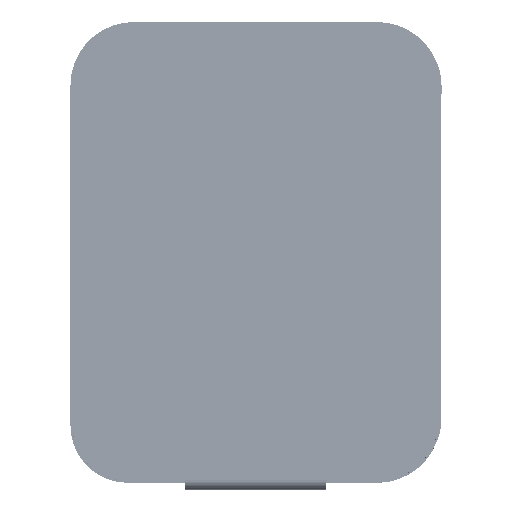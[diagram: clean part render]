
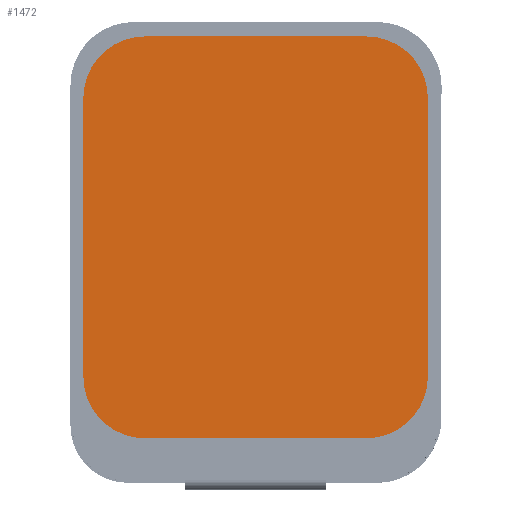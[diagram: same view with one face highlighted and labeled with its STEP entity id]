
A CAD part, top view. The second image highlights one B-rep face of the part: STEP entity #1472.
In plain terms, the highlighted planar face has unit normal (0, 0, 1).
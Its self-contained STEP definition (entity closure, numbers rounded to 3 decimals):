
#282=DIRECTION('',(1.,0.,0.));
#283=VECTOR('',#282,17.97);
#284=CARTESIAN_POINT('',(-8.985,16.315,1.5));
#285=LINE('',#284,#283);
#296=CARTESIAN_POINT('',(8.985,11.315,1.5));
#297=DIRECTION('',(0.,0.,1.));
#298=DIRECTION('',(1.,0.,0.));
#299=AXIS2_PLACEMENT_3D('',#296,#297,#298);
#311=DIRECTION('',(0.,-1.,0.));
#312=VECTOR('',#311,22.63);
#313=CARTESIAN_POINT('',(13.985,11.315,1.5));
#314=LINE('',#313,#312);
#325=CARTESIAN_POINT('',(8.985,-11.315,1.5));
#326=DIRECTION('',(0.,0.,1.));
#327=DIRECTION('',(0.,-1.,0.));
#328=AXIS2_PLACEMENT_3D('',#325,#326,#327);
#340=DIRECTION('',(-1.,0.,0.));
#341=VECTOR('',#340,17.97);
#342=CARTESIAN_POINT('',(8.985,-16.315,1.5));
#343=LINE('',#342,#341);
#354=CARTESIAN_POINT('',(-8.985,-11.315,1.5));
#355=DIRECTION('',(0.,0.,1.));
#356=DIRECTION('',(-1.,0.,0.));
#357=AXIS2_PLACEMENT_3D('',#354,#355,#356);
#369=DIRECTION('',(0.,1.,0.));
#370=VECTOR('',#369,22.63);
#371=CARTESIAN_POINT('',(-13.985,-11.315,1.5));
#372=LINE('',#371,#370);
#383=CARTESIAN_POINT('',(-8.985,11.315,1.5));
#384=DIRECTION('',(0.,0.,1.));
#385=DIRECTION('',(0.,1.,0.));
#386=AXIS2_PLACEMENT_3D('',#383,#384,#385);
#1113=CARTESIAN_POINT('',(-8.985,16.315,1.5));
#1114=CARTESIAN_POINT('',(8.985,16.315,1.5));
#1115=VERTEX_POINT('',#1113);
#1116=VERTEX_POINT('',#1114);
#1117=CARTESIAN_POINT('',(13.985,11.315,1.5));
#1118=VERTEX_POINT('',#1117);
#1119=CARTESIAN_POINT('',(13.985,-11.315,1.5));
#1120=VERTEX_POINT('',#1119);
#1121=CARTESIAN_POINT('',(8.985,-16.315,1.5));
#1122=VERTEX_POINT('',#1121);
#1123=CARTESIAN_POINT('',(-8.985,-16.315,1.5));
#1124=VERTEX_POINT('',#1123);
#1125=CARTESIAN_POINT('',(-13.985,-11.315,1.5));
#1126=VERTEX_POINT('',#1125);
#1127=CARTESIAN_POINT('',(-13.985,11.315,1.5));
#1128=VERTEX_POINT('',#1127);
#1450=CARTESIAN_POINT('',(0.,0.,1.5));
#1451=DIRECTION('',(0.,0.,1.));
#1452=DIRECTION('',(1.,0.,0.));
#1453=AXIS2_PLACEMENT_3D('',#1450,#1451,#1452);
#1454=PLANE('',#1453);
#1455=ORIENTED_EDGE('',*,*,#1440,.T.);
#1457=ORIENTED_EDGE('',*,*,#1456,.F.);
#1459=ORIENTED_EDGE('',*,*,#1458,.T.);
#1461=ORIENTED_EDGE('',*,*,#1460,.F.);
#1463=ORIENTED_EDGE('',*,*,#1462,.T.);
#1465=ORIENTED_EDGE('',*,*,#1464,.F.);
#1467=ORIENTED_EDGE('',*,*,#1466,.T.);
#1469=ORIENTED_EDGE('',*,*,#1468,.F.);
#1470=EDGE_LOOP('',(#1455,#1457,#1459,#1461,#1463,#1465,#1467,#1469));
#1471=FACE_OUTER_BOUND('',#1470,.F.);
#1472=ADVANCED_FACE('',(#1471),#1454,.T.);
#300=CIRCLE('',#299,5.);
#329=CIRCLE('',#328,5.);
#358=CIRCLE('',#357,5.);
#387=CIRCLE('',#386,5.);
#1440=EDGE_CURVE('',#1115,#1116,#285,.T.);
#1456=EDGE_CURVE('',#1118,#1116,#300,.T.);
#1458=EDGE_CURVE('',#1118,#1120,#314,.T.);
#1460=EDGE_CURVE('',#1122,#1120,#329,.T.);
#1462=EDGE_CURVE('',#1122,#1124,#343,.T.);
#1464=EDGE_CURVE('',#1126,#1124,#358,.T.);
#1466=EDGE_CURVE('',#1126,#1128,#372,.T.);
#1468=EDGE_CURVE('',#1115,#1128,#387,.T.);
